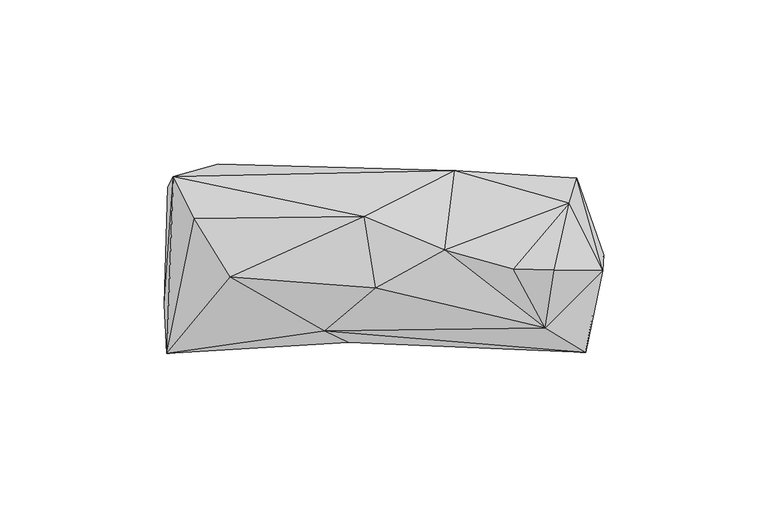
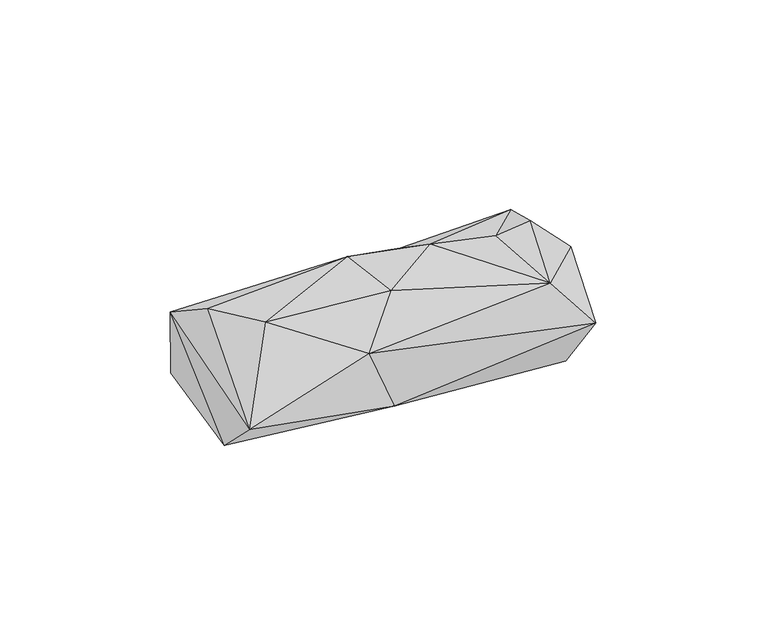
"""IFC4 building model written with IfcOpenShell, lengths in millimetres: geographic element geometry, Enscape AssetDefinition - Pastry 05 : Enscape AssetDefinition - Pastry 05."""

from ifc_helpers import new_model, si_unit, origin, place, context, project, spatial, faceted_brep, source, transform, mapped, element, save


def geographic_element_9d12d4a3(model_context):
    return source(origin(), model_context, "Body", "Brep", [
        faceted_brep([(-11.3270003, -25.5219992, 5.1589999), (53.2279983, -22.6269998, -1.559), (60.8340017, -28.4969993, 14.0650002), (20.5630008, 20.2070009, -0.101), (64.6200031, -8.5100001, 1.581), (-27.3199994, 27.2029992, 0.839), (58.0069982, 24.5960001, 11.0060005), (66.2439987, 1.159, 13.5949999), (65.9789965, -3.58, 26.7960001), (55.8359995, 16.9699993, 32.2399996), (20.9660009, 26.8670004, 23.6549992), (51.1859991, -3.4060001, 41.9810005), (48.4570004, -21.0149996, 29.3060001), (17.9999992, 2.6120001, 40.7949984), (38.7089998, -3.0439999, 40.2919985), (-18.5240004, -21.9170004, 25.8910004), (-2.9889999, -8.9410003, 37.2259989), (-6.4770002, 12.8629999, 38.2760018), (-47.3099984, -5.593, 38.369), (-66.5739998, -28.7970006, 17.5080001), (-58.2309999, 12.2189997, 36.669001), (-64.6409988, 25.0749998, 29.7149997), (-67.3199967, -13.9359999, 2.4689999), (-66.3639978, 21.8679998, 8.5789999), (-50.9649999, 28.7829991, 16.7999994)], [[[0, 1, 2]], [[3, 1, 0]], [[2, 1, 4]], [[4, 1, 3]], [[0, 5, 3]], [[3, 5, 6]], [[4, 3, 6]], [[7, 4, 6]], [[2, 4, 7]], [[8, 7, 6]], [[9, 8, 6]], [[10, 9, 6]], [[5, 10, 6]], [[8, 2, 7]], [[8, 9, 11]], [[11, 12, 8]], [[2, 8, 12]], [[9, 13, 14]], [[14, 11, 9]], [[13, 9, 10]], [[14, 12, 11]], [[15, 12, 16]], [[12, 15, 2]], [[16, 12, 13]], [[13, 12, 14]], [[17, 16, 13]], [[17, 13, 10]], [[15, 16, 18]], [[18, 16, 17]], [[15, 0, 2]], [[19, 0, 15]], [[18, 19, 15]], [[20, 18, 17]], [[18, 20, 19]], [[21, 17, 10]], [[17, 21, 20]], [[19, 20, 21]], [[19, 21, 22]], [[19, 22, 0]], [[22, 5, 0]], [[21, 23, 22]], [[22, 23, 5]], [[24, 21, 10]], [[21, 24, 23]], [[5, 24, 10]], [[5, 23, 24]]]),
    ])


if __name__ == "__main__":
    model = new_model("IFC4")
    model_context = context("Model", 3, world=origin())
    ifc_project = project(units=[si_unit("LENGTHUNIT", "METRE", prefix="MILLI")], contexts=[model_context])
    site = spatial("IfcSite", under=ifc_project)
    building = spatial("IfcBuilding", under=site)
    placement = place(None, origin())
    geographic_element_shape = geographic_element_9d12d4a3(model_context)
    element("IfcGeographicElement", 1, ObjectType="Enscape AssetDefinition - Pastry 05 : Enscape AssetDefinition - Pastry 05", at=placement, inside=building, context=model_context, shape_type="MappedRepresentation", body=[
        mapped(geographic_element_shape, transform((0.0, 0.0, 0.0), x_axis=(1.0, 0.0, 0.0), y_axis=(0.0, 1.0, 0.0), z_axis=(0.0, 0.0, 1.0))),
    ])
    save(model, "model.ifc")
